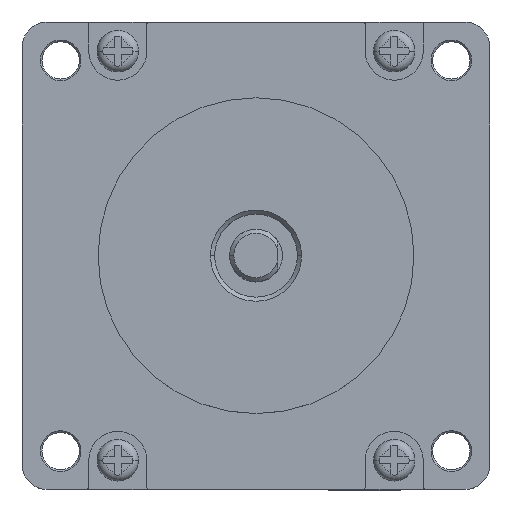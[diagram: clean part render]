
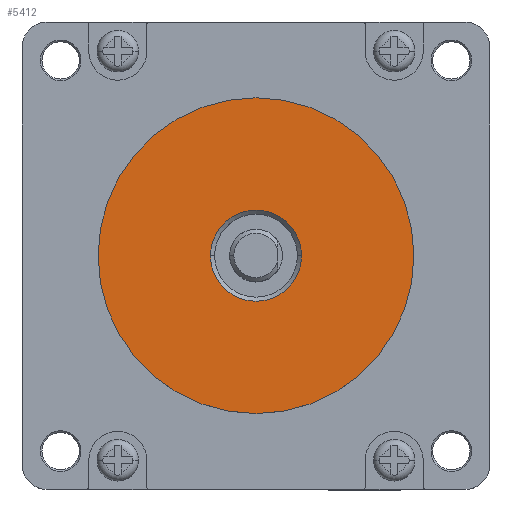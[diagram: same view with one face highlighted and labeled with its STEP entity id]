
A CAD part, top view. The second image highlights one B-rep face of the part: STEP entity #5412.
In plain terms, the highlighted planar face has unit normal (0, 0, 1).
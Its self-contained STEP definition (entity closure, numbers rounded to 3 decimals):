
#352 = EDGE_LOOP ( 'NONE', ( #2177, #2178 ) ) ;
#355 = EDGE_LOOP ( 'NONE', ( #2175, #2176 ) ) ;
#587 = CARTESIAN_POINT ( 'NONE',  ( 0., 0., 4.1 ) ) ;
#596 = DIRECTION ( 'NONE',  ( 0., 0., 1. ) ) ;
#597 = DIRECTION ( 'NONE',  ( 1., 0., 0. ) ) ;
#618 = CARTESIAN_POINT ( 'NONE',  ( 0., 0., 4.1 ) ) ;
#625 = DIRECTION ( 'NONE',  ( 0., 0., -1. ) ) ;
#626 = DIRECTION ( 'NONE',  ( 1., 0., 0. ) ) ;
#2175 = ORIENTED_EDGE ( 'NONE', *, *, #2553, .T. ) ;
#2176 = ORIENTED_EDGE ( 'NONE', *, *, #2727, .T. ) ;
#2177 = ORIENTED_EDGE ( 'NONE', *, *, #2733, .T. ) ;
#2178 = ORIENTED_EDGE ( 'NONE', *, *, #2542, .T. ) ;
#2542 = EDGE_CURVE ( 'NONE', #7158, #7207, #3067, .T. ) ;
#2553 = EDGE_CURVE ( 'NONE', #7257, #7253, #3084, .T. ) ;
#2727 = EDGE_CURVE ( 'NONE', #7253, #7257, #3287, .T. ) ;
#2733 = EDGE_CURVE ( 'NONE', #7207, #7158, #3296, .T. ) ;
#3067 = CIRCLE ( 'NONE', #7962, 19.05 ) ;
#3084 = CIRCLE ( 'NONE', #7967, 5.5 ) ;
#3287 = CIRCLE ( 'NONE', #8045, 5.5 ) ;
#3296 = CIRCLE ( 'NONE', #8049, 19.05 ) ;
#3378 = FACE_BOUND ( 'NONE', #355, .T. ) ;
#3383 = FACE_OUTER_BOUND ( 'NONE', #352, .T. ) ;
#3677 = CARTESIAN_POINT ( 'NONE',  ( 19.05, 0., 4.1 ) ) ;
#3725 = CARTESIAN_POINT ( 'NONE',  ( -19.05, 0., 4.1 ) ) ;
#3771 = CARTESIAN_POINT ( 'NONE',  ( -5.5, 0., 4.1 ) ) ;
#3775 = CARTESIAN_POINT ( 'NONE',  ( 5.5, 0., 4.1 ) ) ;
#4443 = CARTESIAN_POINT ( 'NONE',  ( 0., 0., 4.1 ) ) ;
#4452 = DIRECTION ( 'NONE',  ( 0., 0., -1. ) ) ;
#4453 = DIRECTION ( 'NONE',  ( 1., 0., 0. ) ) ;
#4460 = CARTESIAN_POINT ( 'NONE',  ( 0., 0., 4.1 ) ) ;
#4467 = DIRECTION ( 'NONE',  ( 0., 0., 1. ) ) ;
#4468 = DIRECTION ( 'NONE',  ( 1., 0., 0. ) ) ;
#4603 = CARTESIAN_POINT ( 'NONE',  ( 0., 0., 4.1 ) ) ;
#4604 = PLANE ( 'NONE',  #8071 ) ;
#4605 = DIRECTION ( 'NONE',  ( 0., 0., 1. ) ) ;
#4606 = DIRECTION ( 'NONE',  ( 1., 0., 0. ) ) ;
#5412 = ADVANCED_FACE ( 'NONE', ( #3378, #3383 ), #4604, .T. ) ;
#7158 = VERTEX_POINT ( 'NONE', #3677 ) ;
#7207 = VERTEX_POINT ( 'NONE', #3725 ) ;
#7253 = VERTEX_POINT ( 'NONE', #3771 ) ;
#7257 = VERTEX_POINT ( 'NONE', #3775 ) ;
#7962 = AXIS2_PLACEMENT_3D ( 'NONE', #587, #596, #597 ) ;
#7967 = AXIS2_PLACEMENT_3D ( 'NONE', #618, #625, #626 ) ;
#8045 = AXIS2_PLACEMENT_3D ( 'NONE', #4443, #4452, #4453 ) ;
#8049 = AXIS2_PLACEMENT_3D ( 'NONE', #4460, #4467, #4468 ) ;
#8071 = AXIS2_PLACEMENT_3D ( 'NONE', #4603, #4605, #4606 ) ;
